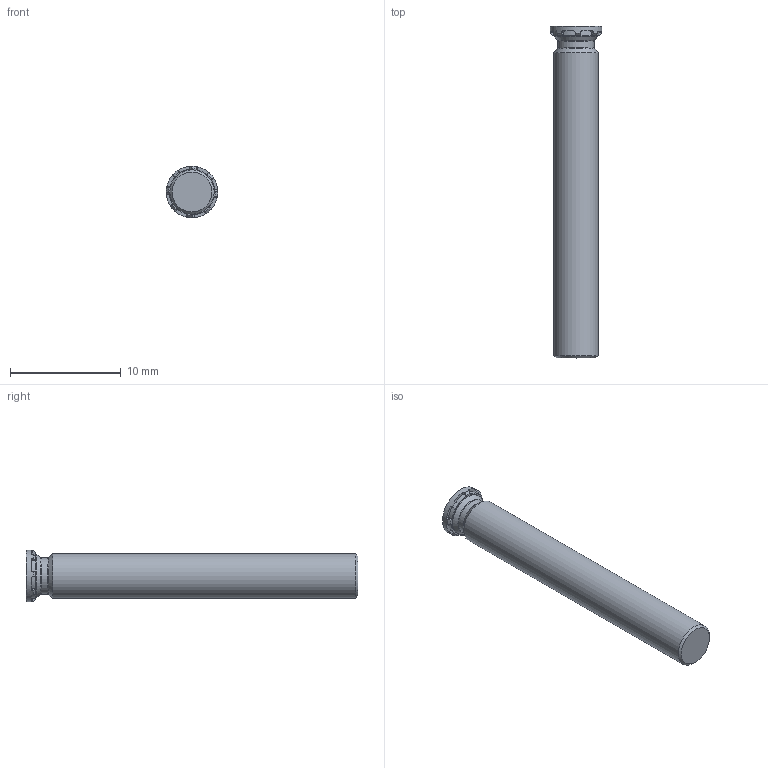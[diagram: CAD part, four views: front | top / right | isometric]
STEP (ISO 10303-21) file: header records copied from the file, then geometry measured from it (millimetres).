
FILE_DESCRIPTION(/* description */ (''),/* implementation_level */ '2;1');
FILE_NAME(/* name */ 'C:\Users\keval.kumar\Desktop\Fastit\Clinch Screw- Reduced FH Range\M4\Clinch Screw-Reduced FH Range_M4x30.stp',/* time_stamp */ '2024-03-12T13:54:27+05:00',/* author */ ('keval.kumar'),/* organization */ (''),/* preprocessor_version */ 'ST-DEVELOPER v18.1',/* originating_system */ 'Autodesk Inventor 2022',/* authorisation */ '');
FILE_SCHEMA (('AUTOMOTIVE_DESIGN { 1 0 10303 214 3 1 1 }'));
Length unit declared in the file: millimetre
Products named in the file (1): Clinch Screw-Reduced FH Range_M4x30
Bounding box: 4.65 x 30 x 4.65 mm (x, y, z)
Volume: 374.9 mm3; surface area: 411.9 mm2
Topology: 1 solids, 1 shells, 68 faces, 193 edges, 128 vertices
Faces by surface type: plane 43, cylinder 12, cone 11, torus 2
Full cylindrical faces by diameter (mm): 3.3 x1, 3.9 x1, 4 x1, 4.65 x1
Entity records: 2278 total; most frequent: CARTESIAN_POINT 422, DIRECTION 405, ORIENTED_EDGE 386, EDGE_CURVE 193, AXIS2_PLACEMENT_3D 159, VERTEX_POINT 128, LINE 87, VECTOR 87
